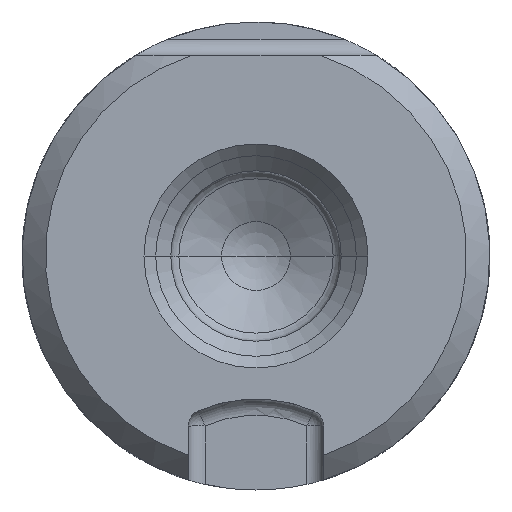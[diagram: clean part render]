
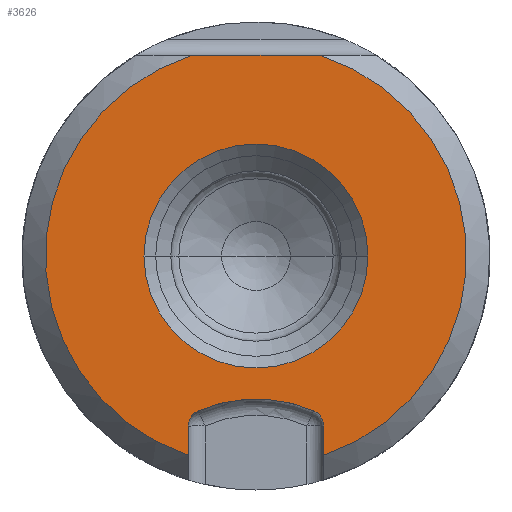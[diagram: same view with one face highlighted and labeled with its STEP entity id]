
A CAD part, left-side view. The second image highlights one B-rep face of the part: STEP entity #3626.
In plain terms, the highlighted planar face has unit normal (-1, 0, 0).
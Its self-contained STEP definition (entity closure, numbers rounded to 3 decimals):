
#966=DIRECTION('',(0.,0.,1.));
#967=VECTOR('',#966,0.876);
#968=CARTESIAN_POINT('',(-22.,9.025,-5.966));
#969=LINE('',#968,#967);
#981=CARTESIAN_POINT('',(-22.,7.,0.));
#982=DIRECTION('',(1.,0.,0.));
#983=DIRECTION('',(0.,-0.305,0.952));
#984=AXIS2_PLACEMENT_3D('',#981,#982,#983);
#986=CARTESIAN_POINT('',(-22.,5.475,-5.09));
#987=DIRECTION('',(-1.,0.,0.));
#988=DIRECTION('',(0.,-1.,0.));
#989=AXIS2_PLACEMENT_3D('',#986,#987,#988);
#991=CARTESIAN_POINT('',(-22.,7.,-8.626));
#992=DIRECTION('',(-1.,0.,0.));
#993=DIRECTION('',(0.,-0.396,0.918));
#994=AXIS2_PLACEMENT_3D('',#991,#992,#993);
#996=CARTESIAN_POINT('',(-22.,8.525,-5.09));
#997=DIRECTION('',(-1.,0.,0.));
#998=DIRECTION('',(0.,0.396,0.918));
#999=AXIS2_PLACEMENT_3D('',#996,#997,#998);
#1001=CARTESIAN_POINT('',(-22.,7.,0.));
#1002=DIRECTION('',(1.,0.,0.));
#1003=DIRECTION('',(0.,0.321,-0.947));
#1004=AXIS2_PLACEMENT_3D('',#1001,#1002,#1003);
#1006=CARTESIAN_POINT('',(-22.,7.,0.));
#1007=DIRECTION('',(-1.,0.,0.));
#1008=DIRECTION('',(0.,1.,0.));
#1009=AXIS2_PLACEMENT_3D('',#1006,#1007,#1008);
#1011=CARTESIAN_POINT('',(-22.,7.,0.));
#1012=DIRECTION('',(-1.,0.,0.));
#1013=DIRECTION('',(0.,-1.,0.));
#1014=AXIS2_PLACEMENT_3D('',#1011,#1012,#1013);
#1016=DIRECTION('',(0.,1.,0.));
#1017=VECTOR('',#1016,3.842);
#1018=CARTESIAN_POINT('',(-22.,5.079,6.));
#1019=LINE('',#1018,#1017);
#1070=DIRECTION('',(0.,0.,-1.));
#1071=VECTOR('',#1070,0.876);
#1072=CARTESIAN_POINT('',(-22.,4.975,-5.09));
#1073=LINE('',#1072,#1071);
#1697=CARTESIAN_POINT('',(-22.,9.025,-5.966));
#1698=CARTESIAN_POINT('',(-22.,9.025,-5.09));
#1699=VERTEX_POINT('',#1697);
#1700=VERTEX_POINT('',#1698);
#1701=CARTESIAN_POINT('',(-22.,5.079,6.));
#1702=CARTESIAN_POINT('',(-22.,8.921,6.));
#1703=VERTEX_POINT('',#1701);
#1704=VERTEX_POINT('',#1702);
#1705=CARTESIAN_POINT('',(-22.,4.975,-5.966));
#1706=VERTEX_POINT('',#1705);
#1707=CARTESIAN_POINT('',(-22.,4.975,-5.09));
#1708=VERTEX_POINT('',#1707);
#1709=CARTESIAN_POINT('',(-22.,5.277,-4.631));
#1710=VERTEX_POINT('',#1709);
#1711=CARTESIAN_POINT('',(-22.,8.723,-4.631));
#1712=VERTEX_POINT('',#1711);
#1713=CARTESIAN_POINT('',(-22.,10.35,0.));
#1714=CARTESIAN_POINT('',(-22.,3.65,0.));
#1715=VERTEX_POINT('',#1713);
#1716=VERTEX_POINT('',#1714);
#3598=CARTESIAN_POINT('',(-22.,14.25,-7.25));
#3599=DIRECTION('',(-1.,0.,0.));
#3600=DIRECTION('',(0.,-1.,0.));
#3601=AXIS2_PLACEMENT_3D('',#3598,#3599,#3600);
#3602=PLANE('',#3601);
#3604=ORIENTED_EDGE('',*,*,#3603,.F.);
#3606=ORIENTED_EDGE('',*,*,#3605,.T.);
#3608=ORIENTED_EDGE('',*,*,#3607,.F.);
#3610=ORIENTED_EDGE('',*,*,#3609,.T.);
#3612=ORIENTED_EDGE('',*,*,#3611,.T.);
#3614=ORIENTED_EDGE('',*,*,#3613,.T.);
#3615=ORIENTED_EDGE('',*,*,#3587,.F.);
#3617=ORIENTED_EDGE('',*,*,#3616,.T.);
#3618=EDGE_LOOP('',(#3604,#3606,#3608,#3610,#3612,#3614,#3615,#3617));
#3619=FACE_OUTER_BOUND('',#3618,.F.);
#3621=ORIENTED_EDGE('',*,*,#3620,.T.);
#3623=ORIENTED_EDGE('',*,*,#3622,.T.);
#3624=EDGE_LOOP('',(#3621,#3623));
#3625=FACE_BOUND('',#3624,.F.);
#3626=ADVANCED_FACE('',(#3619,#3625),#3602,.T.);
#985=CIRCLE('',#984,6.3);
#990=CIRCLE('',#989,0.5);
#995=CIRCLE('',#994,4.351);
#1000=CIRCLE('',#999,0.5);
#1005=CIRCLE('',#1004,6.3);
#1010=CIRCLE('',#1009,3.35);
#1015=CIRCLE('',#1014,3.35);
#3587=EDGE_CURVE('',#1699,#1700,#969,.T.);
#3603=EDGE_CURVE('',#1703,#1704,#1019,.T.);
#3605=EDGE_CURVE('',#1703,#1706,#985,.T.);
#3607=EDGE_CURVE('',#1708,#1706,#1073,.T.);
#3609=EDGE_CURVE('',#1708,#1710,#990,.T.);
#3611=EDGE_CURVE('',#1710,#1712,#995,.T.);
#3613=EDGE_CURVE('',#1712,#1700,#1000,.T.);
#3616=EDGE_CURVE('',#1699,#1704,#1005,.T.);
#3620=EDGE_CURVE('',#1715,#1716,#1010,.T.);
#3622=EDGE_CURVE('',#1716,#1715,#1015,.T.);
